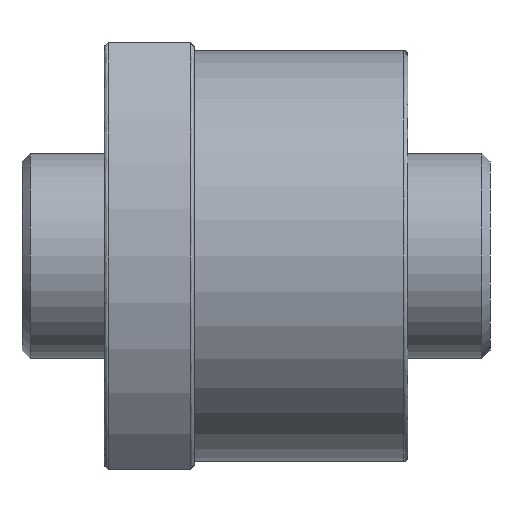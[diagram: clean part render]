
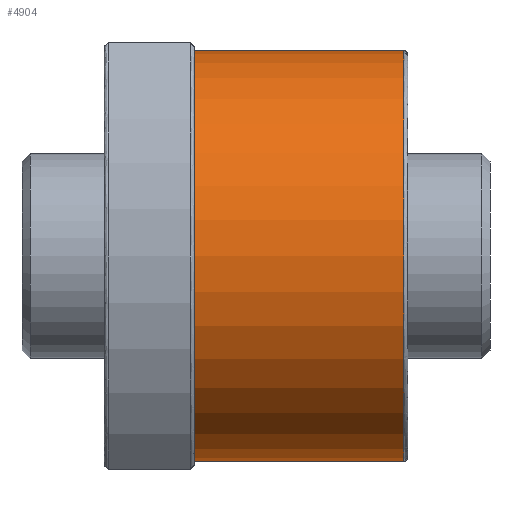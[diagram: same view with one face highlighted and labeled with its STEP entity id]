
A CAD part, front view. The second image highlights one B-rep face of the part: STEP entity #4904.
In plain terms, the highlighted cylindrical face has radius 25 mm (diameter 50 mm), a partial arc.
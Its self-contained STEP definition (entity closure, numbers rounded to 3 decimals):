
#175 = CARTESIAN_POINT ( 'NONE',  ( 37., 0., 0. ) ) ;
#793 = DIRECTION ( 'NONE',  ( -1., 0., 0. ) ) ;
#950 = CARTESIAN_POINT ( 'NONE',  ( 37., 0., 25. ) ) ;
#1273 = AXIS2_PLACEMENT_3D ( 'NONE', #175, #793, #5784 ) ;
#1327 = CARTESIAN_POINT ( 'NONE',  ( 37., 0., -25. ) ) ;
#1378 = CARTESIAN_POINT ( 'NONE',  ( 36.5, 0., 25. ) ) ;
#1608 = VECTOR ( 'NONE', #4130, 1000. ) ;
#1979 = CARTESIAN_POINT ( 'NONE',  ( 11., 0., 25. ) ) ;
#2139 = CIRCLE ( 'NONE', #2295, 25. ) ;
#2172 = CIRCLE ( 'NONE', #3792, 25. ) ;
#2295 = AXIS2_PLACEMENT_3D ( 'NONE', #4553, #3398, #5938 ) ;
#2325 = ORIENTED_EDGE ( 'NONE', *, *, #4888, .F. ) ;
#2464 = EDGE_CURVE ( 'NONE', #5357, #2640, #2172, .T. ) ;
#2640 = VERTEX_POINT ( 'NONE', #1378 ) ;
#2652 = ORIENTED_EDGE ( 'NONE', *, *, #2464, .T. ) ;
#3097 = EDGE_LOOP ( 'NONE', ( #2325, #2652, #4389, #4332 ) ) ;
#3219 = CARTESIAN_POINT ( 'NONE',  ( 36.5, 0., -25. ) ) ;
#3398 = DIRECTION ( 'NONE',  ( 1., 0., 0. ) ) ;
#3627 = VERTEX_POINT ( 'NONE', #1979 ) ;
#3792 = AXIS2_PLACEMENT_3D ( 'NONE', #4079, #6615, #7913 ) ;
#3836 = DIRECTION ( 'NONE',  ( -1., 0., 0. ) ) ;
#4079 = CARTESIAN_POINT ( 'NONE',  ( 36.5, 0., 0. ) ) ;
#4130 = DIRECTION ( 'NONE',  ( -1., 0., 0. ) ) ;
#4264 = LINE ( 'NONE', #950, #1608 ) ;
#4290 = VECTOR ( 'NONE', #3836, 1000. ) ;
#4332 = ORIENTED_EDGE ( 'NONE', *, *, #5468, .T. ) ;
#4349 = VERTEX_POINT ( 'NONE', #7385 ) ;
#4389 = ORIENTED_EDGE ( 'NONE', *, *, #6198, .T. ) ;
#4553 = CARTESIAN_POINT ( 'NONE',  ( 11., 0., 0. ) ) ;
#4888 = EDGE_CURVE ( 'NONE', #5357, #4349, #5570, .T. ) ;
#4904 = ADVANCED_FACE ( 'NONE', ( #7233 ), #7912, .T. ) ;
#5357 = VERTEX_POINT ( 'NONE', #3219 ) ;
#5468 = EDGE_CURVE ( 'NONE', #3627, #4349, #2139, .T. ) ;
#5570 = LINE ( 'NONE', #1327, #4290 ) ;
#5784 = DIRECTION ( 'NONE',  ( 0., 0., 1. ) ) ;
#5938 = DIRECTION ( 'NONE',  ( 0., 0., 1. ) ) ;
#6198 = EDGE_CURVE ( 'NONE', #2640, #3627, #4264, .T. ) ;
#6615 = DIRECTION ( 'NONE',  ( -1., 0., 0. ) ) ;
#7233 = FACE_OUTER_BOUND ( 'NONE', #3097, .T. ) ;
#7385 = CARTESIAN_POINT ( 'NONE',  ( 11., 0., -25. ) ) ;
#7912 = CYLINDRICAL_SURFACE ( 'NONE', #1273, 25. ) ;
#7913 = DIRECTION ( 'NONE',  ( 0., 0., 1. ) ) ;
